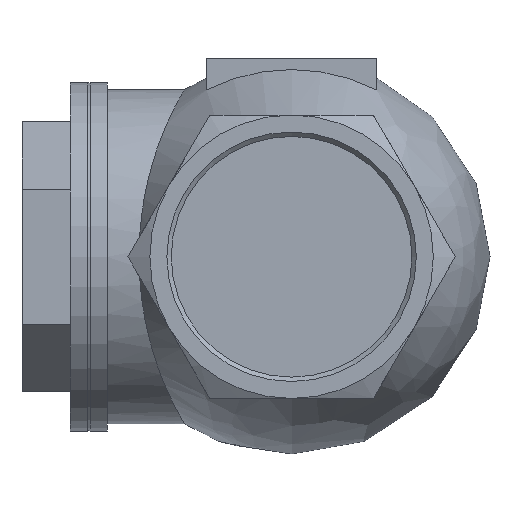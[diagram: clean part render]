
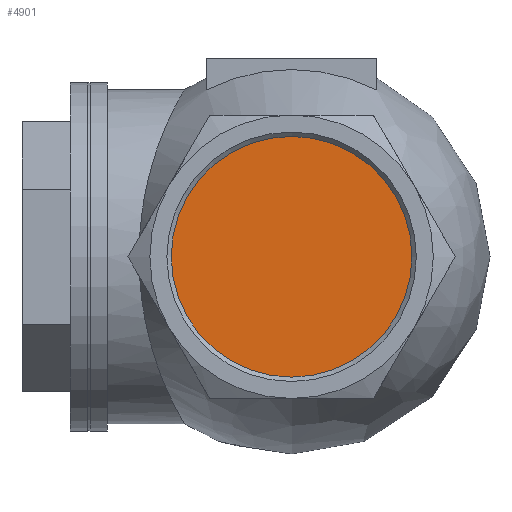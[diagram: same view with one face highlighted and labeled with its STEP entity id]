
A CAD part, left-side view. The second image highlights one B-rep face of the part: STEP entity #4901.
In plain terms, the highlighted planar face has unit normal (-1, 0, 0).
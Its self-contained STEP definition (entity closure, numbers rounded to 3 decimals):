
#583=FACE_OUTER_BOUND('',#880,.T.);
#880=EDGE_LOOP('',(#4382,#4383));
#993=CIRCLE('',#5232,42.463);
#994=CIRCLE('',#5233,42.463);
#2337=VERTEX_POINT('',#8821);
#2338=VERTEX_POINT('',#8823);
#3038=EDGE_CURVE('',#2337,#2338,#993,.T.);
#3039=EDGE_CURVE('',#2338,#2337,#994,.T.);
#4382=ORIENTED_EDGE('',*,*,#3039,.F.);
#4383=ORIENTED_EDGE('',*,*,#3038,.F.);
#4615=PLANE('',#5234);
#4901=ADVANCED_FACE('',(#583),#4615,.F.);
#5232=AXIS2_PLACEMENT_3D('',#8824,#6283,#6284);
#5233=AXIS2_PLACEMENT_3D('',#8825,#6285,#6286);
#5234=AXIS2_PLACEMENT_3D('',#8826,#6287,#6288);
#6283=DIRECTION('center_axis',(1.,0.,0.));
#6284=DIRECTION('ref_axis',(0.,0.,-1.));
#6285=DIRECTION('center_axis',(1.,0.,0.));
#6286=DIRECTION('ref_axis',(0.,0.,-1.));
#6287=DIRECTION('center_axis',(1.,0.,0.));
#6288=DIRECTION('ref_axis',(0.,0.,-1.));
#8821=CARTESIAN_POINT('',(-65.,0.,42.463));
#8823=CARTESIAN_POINT('',(-65.,0.,-42.463));
#8824=CARTESIAN_POINT('Origin',(-65.,0.,0.));
#8825=CARTESIAN_POINT('Origin',(-65.,0.,0.));
#8826=CARTESIAN_POINT('Origin',(-65.,0.,0.));
